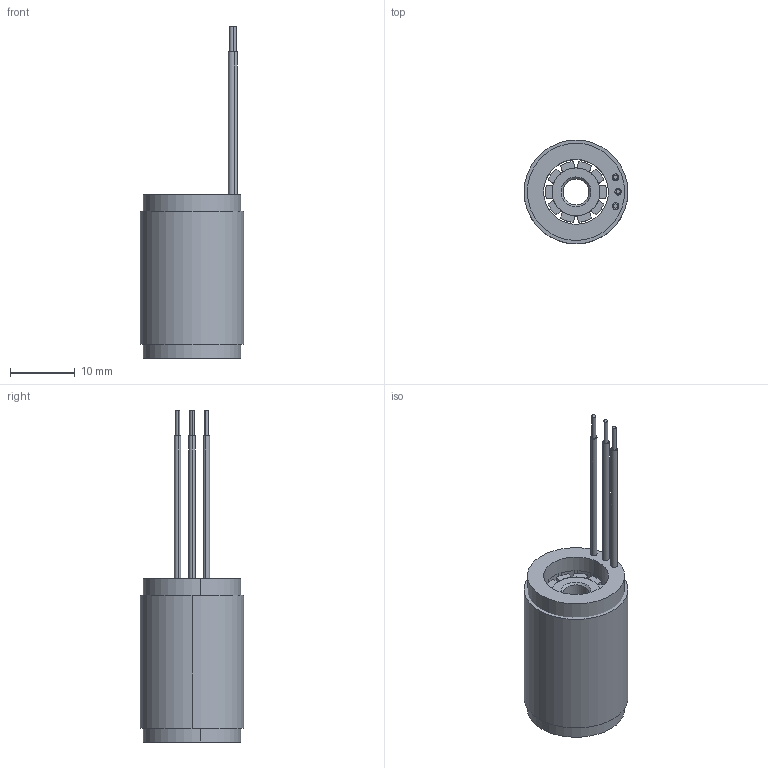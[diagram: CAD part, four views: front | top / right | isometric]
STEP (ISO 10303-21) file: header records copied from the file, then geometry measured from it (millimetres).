
FILE_DESCRIPTION (( 'STEP AP203' ), '1' );
FILE_NAME ('1625萇儂.STEP', '2025-05-10T07:30:57', ( '' ), ( '' ), 'SwSTEP 2.0', 'SolidWorks 2023', '' );
FILE_SCHEMA (( 'CONFIG_CONTROL_DESIGN' ));
Length unit declared in the file: millimetre
Products named in the file (8): 1625磁铁0; 1625线圈; 1625内绕铁心涂覆; 1625转子-1; AWG26线黑; 1625轴0; 1625电机; 1625胶
Assembly tree (29 placements, depth 3):
  1625电机
    1625内绕铁心涂覆
    1625线圈  x12
    1625胶
    1625转子-1
      1625轴0
      1625磁铁0  x10
    AWG26线黑  x3
Bounding box: 16 x 16 x 51.2 mm (x, y, z)
Volume: 6020.2 mm3; surface area: 11052.3 mm2
Topology: 28 solids, 28 shells, 423 faces, 1079 edges, 718 vertices
Faces by surface type: plane 250, cylinder 169, cone 4
Entity records: 6309 total; most frequent: DIRECTION 881, CARTESIAN_POINT 861, ORIENTED_EDGE 814, EDGE_CURVE 407, LINE 301, VECTOR 301, AXIS2_PLACEMENT_3D 290, VERTEX_POINT 270
